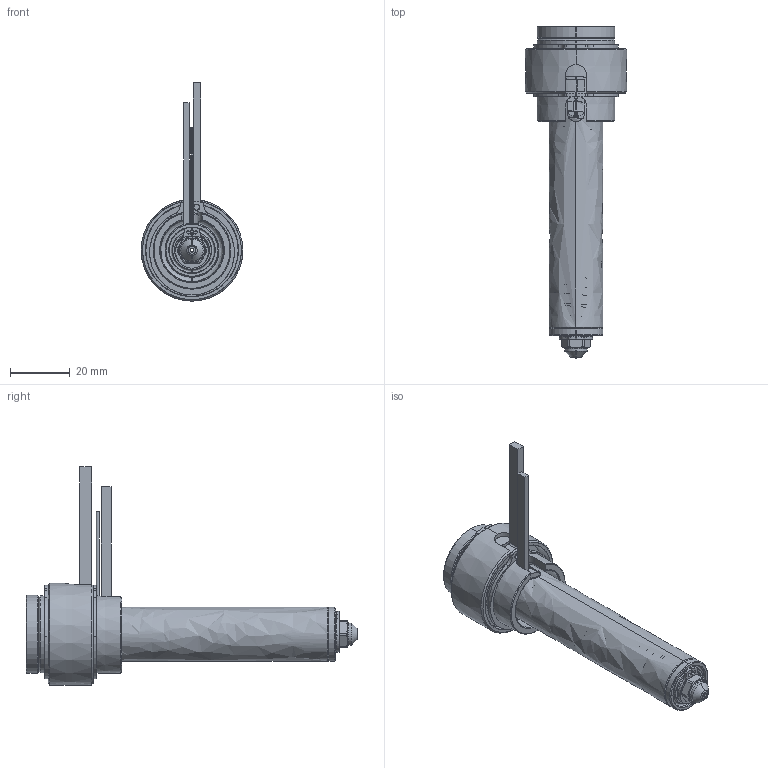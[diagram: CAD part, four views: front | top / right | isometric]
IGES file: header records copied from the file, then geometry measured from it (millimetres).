
Start section: SolidWorks IGES file using analytic representation for surfaces
Global section: file name: C:\Documents and Settings\ws-20\Desktop\TEM\UGER2503-S-A-0 [Øb-1.30 ØC-4.0].IGS; native system: SolidWorks 2012; preprocessor: SolidWorks 2012; author: ws-20; date: 120405.101944; units: millimetre
Bounding box: 34 x 110.9 x 72.9 mm (x, y, z)
Surface area: 28187.1 mm2 (no closed solid volume)
Topology: 0 solids, 0 shells, 203 faces, 2689 edges, 2689 vertices
Faces by surface type: revolution 130, bspline 73
